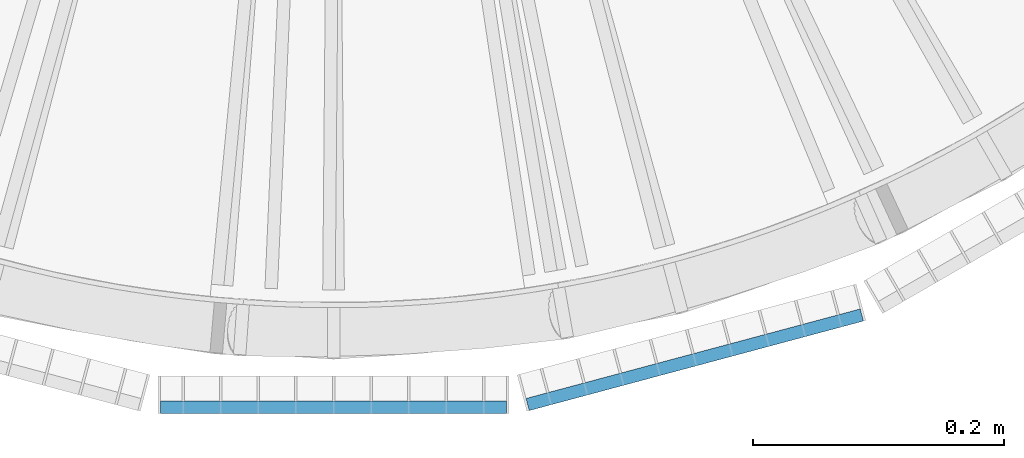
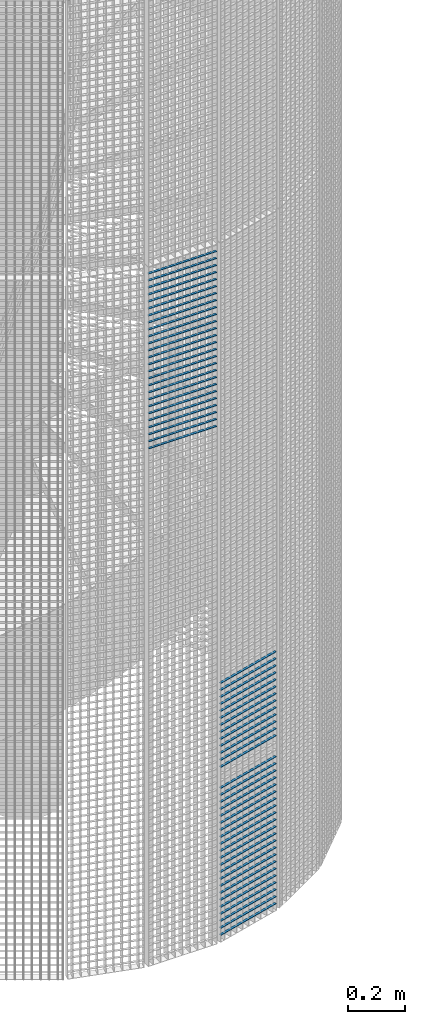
# One storey, part 169 of 1183: 61 beams, 2 elements without a shape of their own.
"""IFC2X3 building model written with IfcOpenShell, lengths in millimetres."""

from ifc_helpers import new_model, si_unit, frame, origin_with_axes, origin_2d_with_axis, place, context, subcontext, project, spatial, rectangle, extrude, material, type_object, element, aggregate, save


model = new_model("IFC2X3")

# Units and contexts
model_context = context("Model", 3, precision=1e-05, world=origin_with_axes())
body_context = subcontext(model_context, "Body", "Model", "MODEL_VIEW")
ifc_project = project(units=[si_unit("LENGTHUNIT", "METRE", prefix="MILLI"), si_unit("AREAUNIT", "SQUARE_METRE"), si_unit("VOLUMEUNIT", "CUBIC_METRE"), si_unit("MASSUNIT", "GRAM", prefix="KILO"), si_unit("TIMEUNIT", "SECOND"), si_unit("PLANEANGLEUNIT", "RADIAN"), si_unit("SOLIDANGLEUNIT", "STERADIAN"), si_unit("THERMODYNAMICTEMPERATUREUNIT", "DEGREE_CELSIUS"), si_unit("LUMINOUSINTENSITYUNIT", "LUMEN")], contexts=[model_context])

# Site, building, storey
site_placement = place(None, origin_with_axes())
site = spatial("IfcSite", under=ifc_project, at=site_placement, Name="Undefined", CompositionType="ELEMENT")
building_placement = place(site_placement, origin_with_axes())
building = spatial("IfcBuilding", under=site, at=building_placement, Name="Undefined", CompositionType="ELEMENT")
storey_placement = place(building_placement, origin_with_axes())
storey = spatial("IfcBuildingStorey", under=building, at=storey_placement, Name="Undefined", CompositionType="ELEMENT", Elevation=0.0)

# Assembly, beams
assembly_1_placement = place(storey_placement, origin_with_axes())
assembly_1 = element("IfcElementAssembly", 1, at=assembly_1_placement, inside=storey, Name="BORDURE", AssemblyPlace="NOTDEFINED", PredefinedType="NOTDEFINED")
ifc_material = material(Name="STEEL/S235JR")
beam_type = type_object("IfcBeamType", Name="PL2*10", PredefinedType="NOTDEFINED")
beam_1_placement = place(assembly_1_placement, frame((154.895926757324, -1111.25508286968, 749.999999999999), z_axis=(0.258819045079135, -0.965925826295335, 0.0), x_axis=(0.965925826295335, 0.258819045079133, 0.0)))
beam_1 = element("IfcBeam", 2, at=beam_1_placement, type_object=beam_type, material=ifc_material, Name="ENTRETOISE", context=body_context, shape_type="SweptSolid", body=[
    extrude(rectangle(XDim=2.0, YDim=10.0, at=origin_2d_with_axis()), frame((275.999999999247, 9.09494701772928e-13, 1.53210777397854e-14), z_axis=(-1.0, 0.0, 0.0), x_axis=(0.0, -1.0, 0.0)), (0.0, 0.0, 1.0), 276.0),
])
beam_2_placement = place(assembly_1_placement, frame((154.895926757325, -1111.25508286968, 659.999999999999), z_axis=(0.258819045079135, -0.965925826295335, 0.0), x_axis=(0.965925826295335, 0.258819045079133, 0.0)))
beam_2 = element("IfcBeam", 3, at=beam_2_placement, type_object=beam_type, material=ifc_material, Name="ENTRETOISE", context=body_context, shape_type="SweptSolid", body=[
    extrude(rectangle(XDim=2.0, YDim=10.0, at=origin_2d_with_axis()), frame((275.999999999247, 9.09494701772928e-13, 1.53210777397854e-14), z_axis=(-1.0, 0.0, 0.0), x_axis=(0.0, -1.0, 0.0)), (0.0, 0.0, 1.0), 276.0),
])
beam_3_placement = place(assembly_1_placement, frame((154.895926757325, -1111.25508286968, 629.999999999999), z_axis=(0.258819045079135, -0.965925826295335, 0.0), x_axis=(0.965925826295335, 0.258819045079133, 0.0)))
beam_3 = element("IfcBeam", 4, at=beam_3_placement, type_object=beam_type, material=ifc_material, Name="ENTRETOISE", context=body_context, shape_type="SweptSolid", body=[
    extrude(rectangle(XDim=2.0, YDim=10.0, at=origin_2d_with_axis()), frame((275.999999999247, 9.09494701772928e-13, 1.53210777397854e-14), z_axis=(-1.0, 0.0, 0.0), x_axis=(0.0, -1.0, 0.0)), (0.0, 0.0, 1.0), 276.0),
])
beam_4_placement = place(assembly_1_placement, frame((154.895926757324, -1111.25508286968, 779.999999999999), z_axis=(0.258819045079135, -0.965925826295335, 0.0), x_axis=(0.965925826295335, 0.258819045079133, 0.0)))
beam_4 = element("IfcBeam", 5, at=beam_4_placement, type_object=beam_type, material=ifc_material, Name="ENTRETOISE", context=body_context, shape_type="SweptSolid", body=[
    extrude(rectangle(XDim=2.0, YDim=10.0, at=origin_2d_with_axis()), frame((275.999999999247, 9.09494701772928e-13, 1.53210777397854e-14), z_axis=(-1.0, 0.0, 0.0), x_axis=(0.0, -1.0, 0.0)), (0.0, 0.0, 1.0), 276.0),
])
beam_5_placement = place(assembly_1_placement, frame((154.895926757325, -1111.25508286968, 599.999999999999), z_axis=(0.258819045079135, -0.965925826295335, 0.0), x_axis=(0.965925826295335, 0.258819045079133, 0.0)))
beam_5 = element("IfcBeam", 6, at=beam_5_placement, type_object=beam_type, material=ifc_material, Name="ENTRETOISE", context=body_context, shape_type="SweptSolid", body=[
    extrude(rectangle(XDim=2.0, YDim=10.0, at=origin_2d_with_axis()), frame((275.999999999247, 9.09494701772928e-13, 1.53210777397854e-14), z_axis=(-1.0, 0.0, 0.0), x_axis=(0.0, -1.0, 0.0)), (0.0, 0.0, 1.0), 276.0),
])
beam_6_placement = place(assembly_1_placement, frame((154.895926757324, -1111.25508286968, 809.999999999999), z_axis=(0.258819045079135, -0.965925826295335, 0.0), x_axis=(0.965925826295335, 0.258819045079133, 0.0)))
beam_6 = element("IfcBeam", 7, at=beam_6_placement, type_object=beam_type, material=ifc_material, Name="ENTRETOISE", context=body_context, shape_type="SweptSolid", body=[
    extrude(rectangle(XDim=2.0, YDim=10.0, at=origin_2d_with_axis()), frame((275.999999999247, 9.09494701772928e-13, 1.53210777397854e-14), z_axis=(-1.0, 0.0, 0.0), x_axis=(0.0, -1.0, 0.0)), (0.0, 0.0, 1.0), 276.0),
])
beam_7_placement = place(assembly_1_placement, frame((154.895926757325, -1111.25508286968, 569.999999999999), z_axis=(0.258819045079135, -0.965925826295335, 0.0), x_axis=(0.965925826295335, 0.258819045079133, 0.0)))
beam_7 = element("IfcBeam", 8, at=beam_7_placement, type_object=beam_type, material=ifc_material, Name="ENTRETOISE", context=body_context, shape_type="SweptSolid", body=[
    extrude(rectangle(XDim=2.0, YDim=10.0, at=origin_2d_with_axis()), frame((275.999999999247, 9.09494701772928e-13, 1.53210777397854e-14), z_axis=(-1.0, 0.0, 0.0), x_axis=(0.0, -1.0, 0.0)), (0.0, 0.0, 1.0), 276.0),
])
beam_8_placement = place(assembly_1_placement, frame((154.895926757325, -1111.25508286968, 539.999999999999), z_axis=(0.258819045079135, -0.965925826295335, 0.0), x_axis=(0.965925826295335, 0.258819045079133, 0.0)))
beam_8 = element("IfcBeam", 9, at=beam_8_placement, type_object=beam_type, material=ifc_material, Name="ENTRETOISE", context=body_context, shape_type="SweptSolid", body=[
    extrude(rectangle(XDim=2.0, YDim=10.0, at=origin_2d_with_axis()), frame((275.999999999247, 9.09494701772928e-13, 1.53210777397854e-14), z_axis=(-1.0, 0.0, 0.0), x_axis=(0.0, -1.0, 0.0)), (0.0, 0.0, 1.0), 276.0),
])
beam_9_placement = place(assembly_1_placement, frame((154.895926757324, -1111.25508286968, 839.999999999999), z_axis=(0.258819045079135, -0.965925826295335, 0.0), x_axis=(0.965925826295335, 0.258819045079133, 0.0)))
beam_9 = element("IfcBeam", 10, at=beam_9_placement, type_object=beam_type, material=ifc_material, Name="ENTRETOISE", context=body_context, shape_type="SweptSolid", body=[
    extrude(rectangle(XDim=2.0, YDim=10.0, at=origin_2d_with_axis()), frame((275.999999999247, 9.09494701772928e-13, 1.53210777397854e-14), z_axis=(-1.0, 0.0, 0.0), x_axis=(0.0, -1.0, 0.0)), (0.0, 0.0, 1.0), 276.0),
])
beam_10_placement = place(assembly_1_placement, frame((154.895926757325, -1111.25508286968, 509.999999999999), z_axis=(0.258819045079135, -0.965925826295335, 0.0), x_axis=(0.965925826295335, 0.258819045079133, 0.0)))
beam_10 = element("IfcBeam", 11, at=beam_10_placement, type_object=beam_type, material=ifc_material, Name="ENTRETOISE", context=body_context, shape_type="SweptSolid", body=[
    extrude(rectangle(XDim=2.0, YDim=10.0, at=origin_2d_with_axis()), frame((275.999999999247, 9.09494701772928e-13, 1.53210777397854e-14), z_axis=(-1.0, 0.0, 0.0), x_axis=(0.0, -1.0, 0.0)), (0.0, 0.0, 1.0), 276.0),
])
beam_11_placement = place(assembly_1_placement, frame((154.895926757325, -1111.25508286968, 479.999999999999), z_axis=(0.258819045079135, -0.965925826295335, 0.0), x_axis=(0.965925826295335, 0.258819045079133, 0.0)))
beam_11 = element("IfcBeam", 12, at=beam_11_placement, type_object=beam_type, material=ifc_material, Name="ENTRETOISE", context=body_context, shape_type="SweptSolid", body=[
    extrude(rectangle(XDim=2.0, YDim=10.0, at=origin_2d_with_axis()), frame((275.999999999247, 9.09494701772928e-13, 1.53210777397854e-14), z_axis=(-1.0, 0.0, 0.0), x_axis=(0.0, -1.0, 0.0)), (0.0, 0.0, 1.0), 276.0),
])
beam_12_placement = place(assembly_1_placement, frame((154.895926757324, -1111.25508286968, 869.999999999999), z_axis=(0.258819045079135, -0.965925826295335, 0.0), x_axis=(0.965925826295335, 0.258819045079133, 0.0)))
beam_12 = element("IfcBeam", 13, at=beam_12_placement, type_object=beam_type, material=ifc_material, Name="ENTRETOISE", context=body_context, shape_type="SweptSolid", body=[
    extrude(rectangle(XDim=2.0, YDim=10.0, at=origin_2d_with_axis()), frame((275.999999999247, 9.09494701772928e-13, 1.53210777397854e-14), z_axis=(-1.0, 0.0, 0.0), x_axis=(0.0, -1.0, 0.0)), (0.0, 0.0, 1.0), 276.0),
])
beam_13_placement = place(assembly_1_placement, frame((154.895926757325, -1111.25508286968, 449.999999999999), z_axis=(0.258819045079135, -0.965925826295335, 0.0), x_axis=(0.965925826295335, 0.258819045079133, 0.0)))
beam_13 = element("IfcBeam", 14, at=beam_13_placement, type_object=beam_type, material=ifc_material, Name="ENTRETOISE", context=body_context, shape_type="SweptSolid", body=[
    extrude(rectangle(XDim=2.0, YDim=10.0, at=origin_2d_with_axis()), frame((275.999999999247, 9.09494701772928e-13, 1.53210777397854e-14), z_axis=(-1.0, 0.0, 0.0), x_axis=(0.0, -1.0, 0.0)), (0.0, 0.0, 1.0), 276.0),
])
beam_14_placement = place(assembly_1_placement, frame((154.895926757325, -1111.25508286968, 419.999999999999), z_axis=(0.258819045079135, -0.965925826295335, 0.0), x_axis=(0.965925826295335, 0.258819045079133, 0.0)))
beam_14 = element("IfcBeam", 15, at=beam_14_placement, type_object=beam_type, material=ifc_material, Name="ENTRETOISE", context=body_context, shape_type="SweptSolid", body=[
    extrude(rectangle(XDim=2.0, YDim=10.0, at=origin_2d_with_axis()), frame((275.999999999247, 9.09494701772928e-13, 1.53210777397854e-14), z_axis=(-1.0, 0.0, 0.0), x_axis=(0.0, -1.0, 0.0)), (0.0, 0.0, 1.0), 276.0),
])
beam_15_placement = place(assembly_1_placement, frame((154.895926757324, -1111.25508286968, 899.999999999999), z_axis=(0.258819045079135, -0.965925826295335, 0.0), x_axis=(0.965925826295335, 0.258819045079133, 0.0)))
beam_15 = element("IfcBeam", 16, at=beam_15_placement, type_object=beam_type, material=ifc_material, Name="ENTRETOISE", context=body_context, shape_type="SweptSolid", body=[
    extrude(rectangle(XDim=2.0, YDim=10.0, at=origin_2d_with_axis()), frame((275.999999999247, 9.09494701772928e-13, 1.53210777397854e-14), z_axis=(-1.0, 0.0, 0.0), x_axis=(0.0, -1.0, 0.0)), (0.0, 0.0, 1.0), 276.0),
])
beam_16_placement = place(assembly_1_placement, frame((154.895926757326, -1111.25508286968, 389.999999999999), z_axis=(0.258819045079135, -0.965925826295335, 0.0), x_axis=(0.965925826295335, 0.258819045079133, 0.0)))
beam_16 = element("IfcBeam", 17, at=beam_16_placement, type_object=beam_type, material=ifc_material, Name="ENTRETOISE", context=body_context, shape_type="SweptSolid", body=[
    extrude(rectangle(XDim=2.0, YDim=10.0, at=origin_2d_with_axis()), frame((275.999999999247, 9.09494701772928e-13, 1.53210777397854e-14), z_axis=(-1.0, 0.0, 0.0), x_axis=(0.0, -1.0, 0.0)), (0.0, 0.0, 1.0), 276.0),
])
beam_17_placement = place(assembly_1_placement, frame((154.895926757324, -1111.25508286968, 929.999999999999), z_axis=(0.258819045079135, -0.965925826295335, 0.0), x_axis=(0.965925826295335, 0.258819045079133, 0.0)))
beam_17 = element("IfcBeam", 18, at=beam_17_placement, type_object=beam_type, material=ifc_material, Name="ENTRETOISE", context=body_context, shape_type="SweptSolid", body=[
    extrude(rectangle(XDim=2.0, YDim=10.0, at=origin_2d_with_axis()), frame((275.999999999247, 9.09494701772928e-13, 1.53210777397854e-14), z_axis=(-1.0, 0.0, 0.0), x_axis=(0.0, -1.0, 0.0)), (0.0, 0.0, 1.0), 276.0),
])
beam_18_placement = place(assembly_1_placement, frame((154.895926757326, -1111.25508286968, 359.999999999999), z_axis=(0.258819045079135, -0.965925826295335, 0.0), x_axis=(0.965925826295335, 0.258819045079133, 0.0)))
beam_18 = element("IfcBeam", 19, at=beam_18_placement, type_object=beam_type, material=ifc_material, Name="ENTRETOISE", context=body_context, shape_type="SweptSolid", body=[
    extrude(rectangle(XDim=2.0, YDim=10.0, at=origin_2d_with_axis()), frame((275.999999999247, 9.09494701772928e-13, 1.53210777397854e-14), z_axis=(-1.0, 0.0, 0.0), x_axis=(0.0, -1.0, 0.0)), (0.0, 0.0, 1.0), 276.0),
])
beam_19_placement = place(assembly_1_placement, frame((154.895926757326, -1111.25508286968, 329.999999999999), z_axis=(0.258819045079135, -0.965925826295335, 0.0), x_axis=(0.965925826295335, 0.258819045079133, 0.0)))
beam_19 = element("IfcBeam", 20, at=beam_19_placement, type_object=beam_type, material=ifc_material, Name="ENTRETOISE", context=body_context, shape_type="SweptSolid", body=[
    extrude(rectangle(XDim=2.0, YDim=10.0, at=origin_2d_with_axis()), frame((275.999999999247, 9.09494701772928e-13, 1.53210777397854e-14), z_axis=(-1.0, 0.0, 0.0), x_axis=(0.0, -1.0, 0.0)), (0.0, 0.0, 1.0), 276.0),
])
beam_20_placement = place(assembly_1_placement, frame((154.895926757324, -1111.25508286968, 959.999999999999), z_axis=(0.258819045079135, -0.965925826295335, 0.0), x_axis=(0.965925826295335, 0.258819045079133, 0.0)))
beam_20 = element("IfcBeam", 21, at=beam_20_placement, type_object=beam_type, material=ifc_material, Name="ENTRETOISE", context=body_context, shape_type="SweptSolid", body=[
    extrude(rectangle(XDim=2.0, YDim=10.0, at=origin_2d_with_axis()), frame((275.999999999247, 9.09494701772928e-13, 1.53210777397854e-14), z_axis=(-1.0, 0.0, 0.0), x_axis=(0.0, -1.0, 0.0)), (0.0, 0.0, 1.0), 276.0),
])
beam_21_placement = place(assembly_1_placement, frame((154.895926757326, -1111.25508286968, 299.999999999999), z_axis=(0.258819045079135, -0.965925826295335, 0.0), x_axis=(0.965925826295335, 0.258819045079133, 0.0)))
beam_21 = element("IfcBeam", 22, at=beam_21_placement, type_object=beam_type, material=ifc_material, Name="ENTRETOISE", context=body_context, shape_type="SweptSolid", body=[
    extrude(rectangle(XDim=2.0, YDim=10.0, at=origin_2d_with_axis()), frame((275.999999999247, 9.09494701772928e-13, 1.53210777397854e-14), z_axis=(-1.0, 0.0, 0.0), x_axis=(0.0, -1.0, 0.0)), (0.0, 0.0, 1.0), 276.0),
])
beam_22_placement = place(assembly_1_placement, frame((154.895926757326, -1111.25508286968, 269.999999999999), z_axis=(0.258819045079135, -0.965925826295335, 0.0), x_axis=(0.965925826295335, 0.258819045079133, 0.0)))
beam_22 = element("IfcBeam", 23, at=beam_22_placement, type_object=beam_type, material=ifc_material, Name="ENTRETOISE", context=body_context, shape_type="SweptSolid", body=[
    extrude(rectangle(XDim=2.0, YDim=10.0, at=origin_2d_with_axis()), frame((275.999999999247, 9.09494701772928e-13, 1.53210777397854e-14), z_axis=(-1.0, 0.0, 0.0), x_axis=(0.0, -1.0, 0.0)), (0.0, 0.0, 1.0), 276.0),
])
beam_23_placement = place(assembly_1_placement, frame((154.895926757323, -1111.25508286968, 989.999999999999), z_axis=(0.258819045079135, -0.965925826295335, 0.0), x_axis=(0.965925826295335, 0.258819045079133, 0.0)))
beam_23 = element("IfcBeam", 24, at=beam_23_placement, type_object=beam_type, material=ifc_material, Name="ENTRETOISE", context=body_context, shape_type="SweptSolid", body=[
    extrude(rectangle(XDim=2.0, YDim=10.0, at=origin_2d_with_axis()), frame((275.999999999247, 9.09494701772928e-13, 1.53210777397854e-14), z_axis=(-1.0, 0.0, 0.0), x_axis=(0.0, -1.0, 0.0)), (0.0, 0.0, 1.0), 276.0),
])
beam_24_placement = place(assembly_1_placement, frame((154.895926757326, -1111.25508286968, 239.999999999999), z_axis=(0.258819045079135, -0.965925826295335, 0.0), x_axis=(0.965925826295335, 0.258819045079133, 0.0)))
beam_24 = element("IfcBeam", 25, at=beam_24_placement, type_object=beam_type, material=ifc_material, Name="ENTRETOISE", context=body_context, shape_type="SweptSolid", body=[
    extrude(rectangle(XDim=2.0, YDim=10.0, at=origin_2d_with_axis()), frame((275.999999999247, 9.09494701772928e-13, 1.53210777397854e-14), z_axis=(-1.0, 0.0, 0.0), x_axis=(0.0, -1.0, 0.0)), (0.0, 0.0, 1.0), 276.0),
])
beam_25_placement = place(assembly_1_placement, frame((154.895926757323, -1111.25508286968, 1020.0), z_axis=(0.258819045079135, -0.965925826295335, 0.0), x_axis=(0.965925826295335, 0.258819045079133, 0.0)))
beam_25 = element("IfcBeam", 26, at=beam_25_placement, type_object=beam_type, material=ifc_material, Name="ENTRETOISE", context=body_context, shape_type="SweptSolid", body=[
    extrude(rectangle(XDim=2.0, YDim=10.0, at=origin_2d_with_axis()), frame((275.999999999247, 9.09494701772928e-13, 1.53210777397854e-14), z_axis=(-1.0, 0.0, 0.0), x_axis=(0.0, -1.0, 0.0)), (0.0, 0.0, 1.0), 276.0),
])
beam_26_placement = place(assembly_1_placement, frame((154.895926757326, -1111.25508286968, 209.999999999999), z_axis=(0.258819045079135, -0.965925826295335, 0.0), x_axis=(0.965925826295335, 0.258819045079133, 0.0)))
beam_26 = element("IfcBeam", 27, at=beam_26_placement, type_object=beam_type, material=ifc_material, Name="ENTRETOISE", context=body_context, shape_type="SweptSolid", body=[
    extrude(rectangle(XDim=2.0, YDim=10.0, at=origin_2d_with_axis()), frame((275.999999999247, 9.09494701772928e-13, 1.53210777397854e-14), z_axis=(-1.0, 0.0, 0.0), x_axis=(0.0, -1.0, 0.0)), (0.0, 0.0, 1.0), 276.0),
])
beam_27_placement = place(assembly_1_placement, frame((154.895926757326, -1111.25508286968, 179.999999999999), z_axis=(0.258819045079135, -0.965925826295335, 0.0), x_axis=(0.965925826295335, 0.258819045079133, 0.0)))
beam_27 = element("IfcBeam", 28, at=beam_27_placement, type_object=beam_type, material=ifc_material, Name="ENTRETOISE", context=body_context, shape_type="SweptSolid", body=[
    extrude(rectangle(XDim=2.0, YDim=10.0, at=origin_2d_with_axis()), frame((275.999999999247, 9.09494701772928e-13, 1.53210777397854e-14), z_axis=(-1.0, 0.0, 0.0), x_axis=(0.0, -1.0, 0.0)), (0.0, 0.0, 1.0), 276.0),
])
beam_28_placement = place(assembly_1_placement, frame((154.895926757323, -1111.25508286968, 1050.0), z_axis=(0.258819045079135, -0.965925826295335, 0.0), x_axis=(0.965925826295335, 0.258819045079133, 0.0)))
beam_28 = element("IfcBeam", 29, at=beam_28_placement, type_object=beam_type, material=ifc_material, Name="ENTRETOISE", context=body_context, shape_type="SweptSolid", body=[
    extrude(rectangle(XDim=2.0, YDim=10.0, at=origin_2d_with_axis()), frame((275.999999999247, 9.09494701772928e-13, 1.53210777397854e-14), z_axis=(-1.0, 0.0, 0.0), x_axis=(0.0, -1.0, 0.0)), (0.0, 0.0, 1.0), 276.0),
])
beam_29_placement = place(assembly_1_placement, frame((154.895926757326, -1111.25508286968, 149.999999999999), z_axis=(0.258819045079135, -0.965925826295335, 0.0), x_axis=(0.965925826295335, 0.258819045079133, 0.0)))
beam_29 = element("IfcBeam", 30, at=beam_29_placement, type_object=beam_type, material=ifc_material, Name="ENTRETOISE", context=body_context, shape_type="SweptSolid", body=[
    extrude(rectangle(XDim=2.0, YDim=10.0, at=origin_2d_with_axis()), frame((275.999999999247, 9.09494701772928e-13, 1.53210777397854e-14), z_axis=(-1.0, 0.0, 0.0), x_axis=(0.0, -1.0, 0.0)), (0.0, 0.0, 1.0), 276.0),
])
beam_30_placement = place(assembly_1_placement, frame((154.895926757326, -1111.25508286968, 119.999999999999), z_axis=(0.258819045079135, -0.965925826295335, 0.0), x_axis=(0.965925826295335, 0.258819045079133, 0.0)))
beam_30 = element("IfcBeam", 31, at=beam_30_placement, type_object=beam_type, material=ifc_material, Name="ENTRETOISE", context=body_context, shape_type="SweptSolid", body=[
    extrude(rectangle(XDim=2.0, YDim=10.0, at=origin_2d_with_axis()), frame((275.999999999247, 9.09494701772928e-13, 1.53210777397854e-14), z_axis=(-1.0, 0.0, 0.0), x_axis=(0.0, -1.0, 0.0)), (0.0, 0.0, 1.0), 276.0),
])
beam_31_placement = place(assembly_1_placement, frame((154.895926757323, -1111.25508286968, 1080.0), z_axis=(0.258819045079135, -0.965925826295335, 0.0), x_axis=(0.965925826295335, 0.258819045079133, 0.0)))
beam_31 = element("IfcBeam", 32, at=beam_31_placement, type_object=beam_type, material=ifc_material, Name="ENTRETOISE", context=body_context, shape_type="SweptSolid", body=[
    extrude(rectangle(XDim=2.0, YDim=10.0, at=origin_2d_with_axis()), frame((275.999999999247, 9.09494701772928e-13, 1.53210777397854e-14), z_axis=(-1.0, 0.0, 0.0), x_axis=(0.0, -1.0, 0.0)), (0.0, 0.0, 1.0), 276.0),
])
beam_32_placement = place(assembly_1_placement, frame((154.895926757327, -1111.25508286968, 89.9999999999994), z_axis=(0.258819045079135, -0.965925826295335, 0.0), x_axis=(0.965925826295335, 0.258819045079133, 0.0)))
beam_32 = element("IfcBeam", 33, at=beam_32_placement, type_object=beam_type, material=ifc_material, Name="ENTRETOISE", context=body_context, shape_type="SweptSolid", body=[
    extrude(rectangle(XDim=2.0, YDim=10.0, at=origin_2d_with_axis()), frame((275.999999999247, 9.09494701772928e-13, 1.53210777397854e-14), z_axis=(-1.0, 0.0, 0.0), x_axis=(0.0, -1.0, 0.0)), (0.0, 0.0, 1.0), 276.0),
])
beam_33_placement = place(assembly_1_placement, frame((154.895926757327, -1111.25508286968, 59.9999999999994), z_axis=(0.258819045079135, -0.965925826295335, 0.0), x_axis=(0.965925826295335, 0.258819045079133, 0.0)))
beam_33 = element("IfcBeam", 34, at=beam_33_placement, type_object=beam_type, material=ifc_material, Name="ENTRETOISE", context=body_context, shape_type="SweptSolid", body=[
    extrude(rectangle(XDim=2.0, YDim=10.0, at=origin_2d_with_axis()), frame((275.999999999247, 9.09494701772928e-13, 1.53210777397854e-14), z_axis=(-1.0, 0.0, 0.0), x_axis=(0.0, -1.0, 0.0)), (0.0, 0.0, 1.0), 276.0),
])
beam_34_placement = place(assembly_1_placement, frame((154.895926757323, -1111.25508286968, 1110.0), z_axis=(0.258819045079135, -0.965925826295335, 0.0), x_axis=(0.965925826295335, 0.258819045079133, 0.0)))
beam_34 = element("IfcBeam", 35, at=beam_34_placement, type_object=beam_type, material=ifc_material, Name="ENTRETOISE", context=body_context, shape_type="SweptSolid", body=[
    extrude(rectangle(XDim=2.0, YDim=10.0, at=origin_2d_with_axis()), frame((275.999999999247, 9.09494701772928e-13, 1.53210777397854e-14), z_axis=(-1.0, 0.0, 0.0), x_axis=(0.0, -1.0, 0.0)), (0.0, 0.0, 1.0), 276.0),
])
beam_35_placement = place(assembly_1_placement, frame((154.895926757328, -1111.25508286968, 29.9999999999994), z_axis=(0.258819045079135, -0.965925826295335, 0.0), x_axis=(0.965925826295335, 0.258819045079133, 0.0)))
beam_35 = element("IfcBeam", 36, at=beam_35_placement, type_object=beam_type, material=ifc_material, Name="ENTRETOISE", context=body_context, shape_type="SweptSolid", body=[
    extrude(rectangle(XDim=2.0, YDim=10.0, at=origin_2d_with_axis()), frame((275.999999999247, 9.09494701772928e-13, 1.53210777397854e-14), z_axis=(-1.0, 0.0, 0.0), x_axis=(0.0, -1.0, 0.0)), (0.0, 0.0, 1.0), 276.0),
])
aggregate(assembly_1, [beam_1, beam_2, beam_3, beam_4, beam_5, beam_6, beam_7, beam_8, beam_9, beam_10, beam_11, beam_12, beam_13, beam_14, beam_15, beam_16, beam_17, beam_18, beam_19, beam_20, beam_21, beam_22, beam_23, beam_24, beam_25, beam_26, beam_27, beam_28, beam_29, beam_30, beam_31, beam_32, beam_33, beam_34, beam_35])

assembly_2_placement = place(storey_placement, origin_with_axes())
assembly_2 = element("IfcElementAssembly", 37, at=assembly_2_placement, inside=storey, Name="BORDURE", AssemblyPlace="NOTDEFINED", PredefinedType="NOTDEFINED")
beam_36_placement = place(assembly_2_placement, frame((-137.996003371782, -1113.47999999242, 2970.0), z_axis=(0.0, -1.0, 0.0), x_axis=(1.0, 0.0, 0.0)))
beam_36 = element("IfcBeam", 38, at=beam_36_placement, type_object=beam_type, material=ifc_material, Name="ENTRETOISE", context=body_context, shape_type="SweptSolid", body=[
    extrude(rectangle(XDim=2.0, YDim=10.0, at=origin_2d_with_axis()), frame((275.999999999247, 9.09494701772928e-13, 1.53210777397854e-14), z_axis=(-1.0, 0.0, 0.0), x_axis=(0.0, -1.0, 0.0)), (0.0, 0.0, 1.0), 276.0),
])
beam_37_placement = place(assembly_2_placement, frame((-137.996003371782, -1113.47999999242, 2940.0), z_axis=(0.0, -1.0, 0.0), x_axis=(1.0, 0.0, 0.0)))
beam_37 = element("IfcBeam", 39, at=beam_37_placement, type_object=beam_type, material=ifc_material, Name="ENTRETOISE", context=body_context, shape_type="SweptSolid", body=[
    extrude(rectangle(XDim=2.0, YDim=10.0, at=origin_2d_with_axis()), frame((275.999999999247, 9.09494701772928e-13, 1.53210777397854e-14), z_axis=(-1.0, 0.0, 0.0), x_axis=(0.0, -1.0, 0.0)), (0.0, 0.0, 1.0), 276.0),
])
beam_38_placement = place(assembly_2_placement, frame((-137.996003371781, -1113.47999999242, 2910.0), z_axis=(0.0, -1.0, 0.0), x_axis=(1.0, 0.0, 0.0)))
beam_38 = element("IfcBeam", 40, at=beam_38_placement, type_object=beam_type, material=ifc_material, Name="ENTRETOISE", context=body_context, shape_type="SweptSolid", body=[
    extrude(rectangle(XDim=2.0, YDim=10.0, at=origin_2d_with_axis()), frame((275.999999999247, 9.09494701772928e-13, 1.53210777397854e-14), z_axis=(-1.0, 0.0, 0.0), x_axis=(0.0, -1.0, 0.0)), (0.0, 0.0, 1.0), 276.0),
])
beam_39_placement = place(assembly_2_placement, frame((-137.996003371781, -1113.47999999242, 2880.0), z_axis=(0.0, -1.0, 0.0), x_axis=(1.0, 0.0, 0.0)))
beam_39 = element("IfcBeam", 41, at=beam_39_placement, type_object=beam_type, material=ifc_material, Name="ENTRETOISE", context=body_context, shape_type="SweptSolid", body=[
    extrude(rectangle(XDim=2.0, YDim=10.0, at=origin_2d_with_axis()), frame((275.999999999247, 9.09494701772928e-13, 1.53210777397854e-14), z_axis=(-1.0, 0.0, 0.0), x_axis=(0.0, -1.0, 0.0)), (0.0, 0.0, 1.0), 276.0),
])
beam_40_placement = place(assembly_2_placement, frame((-137.996003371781, -1113.47999999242, 2850.0), z_axis=(0.0, -1.0, 0.0), x_axis=(1.0, 0.0, 0.0)))
beam_40 = element("IfcBeam", 42, at=beam_40_placement, type_object=beam_type, material=ifc_material, Name="ENTRETOISE", context=body_context, shape_type="SweptSolid", body=[
    extrude(rectangle(XDim=2.0, YDim=10.0, at=origin_2d_with_axis()), frame((275.999999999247, 9.09494701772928e-13, 1.53210777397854e-14), z_axis=(-1.0, 0.0, 0.0), x_axis=(0.0, -1.0, 0.0)), (0.0, 0.0, 1.0), 276.0),
])
beam_41_placement = place(assembly_2_placement, frame((-137.996003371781, -1113.47999999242, 2820.0), z_axis=(0.0, -1.0, 0.0), x_axis=(1.0, 0.0, 0.0)))
beam_41 = element("IfcBeam", 43, at=beam_41_placement, type_object=beam_type, material=ifc_material, Name="ENTRETOISE", context=body_context, shape_type="SweptSolid", body=[
    extrude(rectangle(XDim=2.0, YDim=10.0, at=origin_2d_with_axis()), frame((275.999999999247, 9.09494701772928e-13, 1.53210777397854e-14), z_axis=(-1.0, 0.0, 0.0), x_axis=(0.0, -1.0, 0.0)), (0.0, 0.0, 1.0), 276.0),
])
beam_42_placement = place(assembly_2_placement, frame((-137.996003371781, -1113.47999999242, 2790.0), z_axis=(0.0, -1.0, 0.0), x_axis=(1.0, 0.0, 0.0)))
beam_42 = element("IfcBeam", 44, at=beam_42_placement, type_object=beam_type, material=ifc_material, Name="ENTRETOISE", context=body_context, shape_type="SweptSolid", body=[
    extrude(rectangle(XDim=2.0, YDim=10.0, at=origin_2d_with_axis()), frame((275.999999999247, 9.09494701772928e-13, 1.53210777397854e-14), z_axis=(-1.0, 0.0, 0.0), x_axis=(0.0, -1.0, 0.0)), (0.0, 0.0, 1.0), 276.0),
])
beam_43_placement = place(assembly_2_placement, frame((-137.996003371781, -1113.47999999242, 2760.0), z_axis=(0.0, -1.0, 0.0), x_axis=(1.0, 0.0, 0.0)))
beam_43 = element("IfcBeam", 45, at=beam_43_placement, type_object=beam_type, material=ifc_material, Name="ENTRETOISE", context=body_context, shape_type="SweptSolid", body=[
    extrude(rectangle(XDim=2.0, YDim=10.0, at=origin_2d_with_axis()), frame((275.999999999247, 9.09494701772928e-13, 1.53210777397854e-14), z_axis=(-1.0, 0.0, 0.0), x_axis=(0.0, -1.0, 0.0)), (0.0, 0.0, 1.0), 276.0),
])
beam_44_placement = place(assembly_2_placement, frame((-137.996003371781, -1113.47999999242, 2730.0), z_axis=(0.0, -1.0, 0.0), x_axis=(1.0, 0.0, 0.0)))
beam_44 = element("IfcBeam", 46, at=beam_44_placement, type_object=beam_type, material=ifc_material, Name="ENTRETOISE", context=body_context, shape_type="SweptSolid", body=[
    extrude(rectangle(XDim=2.0, YDim=10.0, at=origin_2d_with_axis()), frame((275.999999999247, 9.09494701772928e-13, 1.53210777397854e-14), z_axis=(-1.0, 0.0, 0.0), x_axis=(0.0, -1.0, 0.0)), (0.0, 0.0, 1.0), 276.0),
])
beam_45_placement = place(assembly_2_placement, frame((-137.996003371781, -1113.47999999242, 2700.0), z_axis=(0.0, -1.0, 0.0), x_axis=(1.0, 0.0, 0.0)))
beam_45 = element("IfcBeam", 47, at=beam_45_placement, type_object=beam_type, material=ifc_material, Name="ENTRETOISE", context=body_context, shape_type="SweptSolid", body=[
    extrude(rectangle(XDim=2.0, YDim=10.0, at=origin_2d_with_axis()), frame((275.999999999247, 9.09494701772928e-13, 1.53210777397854e-14), z_axis=(-1.0, 0.0, 0.0), x_axis=(0.0, -1.0, 0.0)), (0.0, 0.0, 1.0), 276.0),
])
beam_46_placement = place(assembly_2_placement, frame((-137.996003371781, -1113.47999999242, 2670.0), z_axis=(0.0, -1.0, 0.0), x_axis=(1.0, 0.0, 0.0)))
beam_46 = element("IfcBeam", 48, at=beam_46_placement, type_object=beam_type, material=ifc_material, Name="ENTRETOISE", context=body_context, shape_type="SweptSolid", body=[
    extrude(rectangle(XDim=2.0, YDim=10.0, at=origin_2d_with_axis()), frame((275.999999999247, 9.09494701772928e-13, 1.53210777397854e-14), z_axis=(-1.0, 0.0, 0.0), x_axis=(0.0, -1.0, 0.0)), (0.0, 0.0, 1.0), 276.0),
])
beam_47_placement = place(assembly_2_placement, frame((-137.996003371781, -1113.47999999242, 2640.0), z_axis=(0.0, -1.0, 0.0), x_axis=(1.0, 0.0, 0.0)))
beam_47 = element("IfcBeam", 49, at=beam_47_placement, type_object=beam_type, material=ifc_material, Name="ENTRETOISE", context=body_context, shape_type="SweptSolid", body=[
    extrude(rectangle(XDim=2.0, YDim=10.0, at=origin_2d_with_axis()), frame((275.999999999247, 9.09494701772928e-13, 1.53210777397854e-14), z_axis=(-1.0, 0.0, 0.0), x_axis=(0.0, -1.0, 0.0)), (0.0, 0.0, 1.0), 276.0),
])
beam_48_placement = place(assembly_2_placement, frame((-137.99600337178, -1113.47999999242, 2610.0), z_axis=(0.0, -1.0, 0.0), x_axis=(1.0, 0.0, 0.0)))
beam_48 = element("IfcBeam", 50, at=beam_48_placement, type_object=beam_type, material=ifc_material, Name="ENTRETOISE", context=body_context, shape_type="SweptSolid", body=[
    extrude(rectangle(XDim=2.0, YDim=10.0, at=origin_2d_with_axis()), frame((275.999999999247, 9.09494701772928e-13, 1.53210777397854e-14), z_axis=(-1.0, 0.0, 0.0), x_axis=(0.0, -1.0, 0.0)), (0.0, 0.0, 1.0), 276.0),
])
beam_49_placement = place(assembly_2_placement, frame((-137.99600337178, -1113.47999999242, 2580.0), z_axis=(0.0, -1.0, 0.0), x_axis=(1.0, 0.0, 0.0)))
beam_49 = element("IfcBeam", 51, at=beam_49_placement, type_object=beam_type, material=ifc_material, Name="ENTRETOISE", context=body_context, shape_type="SweptSolid", body=[
    extrude(rectangle(XDim=2.0, YDim=10.0, at=origin_2d_with_axis()), frame((275.999999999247, 9.09494701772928e-13, 1.53210777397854e-14), z_axis=(-1.0, 0.0, 0.0), x_axis=(0.0, -1.0, 0.0)), (0.0, 0.0, 1.0), 276.0),
])
beam_50_placement = place(assembly_2_placement, frame((-137.99600337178, -1113.47999999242, 2550.0), z_axis=(0.0, -1.0, 0.0), x_axis=(1.0, 0.0, 0.0)))
beam_50 = element("IfcBeam", 52, at=beam_50_placement, type_object=beam_type, material=ifc_material, Name="ENTRETOISE", context=body_context, shape_type="SweptSolid", body=[
    extrude(rectangle(XDim=2.0, YDim=10.0, at=origin_2d_with_axis()), frame((275.999999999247, 9.09494701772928e-13, 1.53210777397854e-14), z_axis=(-1.0, 0.0, 0.0), x_axis=(0.0, -1.0, 0.0)), (0.0, 0.0, 1.0), 276.0),
])
beam_51_placement = place(assembly_2_placement, frame((-137.99600337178, -1113.47999999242, 2520.0), z_axis=(0.0, -1.0, 0.0), x_axis=(1.0, 0.0, 0.0)))
beam_51 = element("IfcBeam", 53, at=beam_51_placement, type_object=beam_type, material=ifc_material, Name="ENTRETOISE", context=body_context, shape_type="SweptSolid", body=[
    extrude(rectangle(XDim=2.0, YDim=10.0, at=origin_2d_with_axis()), frame((275.999999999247, 9.09494701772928e-13, 1.53210777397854e-14), z_axis=(-1.0, 0.0, 0.0), x_axis=(0.0, -1.0, 0.0)), (0.0, 0.0, 1.0), 276.0),
])
beam_52_placement = place(assembly_2_placement, frame((-137.99600337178, -1113.47999999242, 2490.0), z_axis=(0.0, -1.0, 0.0), x_axis=(1.0, 0.0, 0.0)))
beam_52 = element("IfcBeam", 54, at=beam_52_placement, type_object=beam_type, material=ifc_material, Name="ENTRETOISE", context=body_context, shape_type="SweptSolid", body=[
    extrude(rectangle(XDim=2.0, YDim=10.0, at=origin_2d_with_axis()), frame((275.999999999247, 9.09494701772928e-13, 1.53210777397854e-14), z_axis=(-1.0, 0.0, 0.0), x_axis=(0.0, -1.0, 0.0)), (0.0, 0.0, 1.0), 276.0),
])
beam_53_placement = place(assembly_2_placement, frame((-137.99600337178, -1113.47999999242, 2460.0), z_axis=(0.0, -1.0, 0.0), x_axis=(1.0, 0.0, 0.0)))
beam_53 = element("IfcBeam", 55, at=beam_53_placement, type_object=beam_type, material=ifc_material, Name="ENTRETOISE", context=body_context, shape_type="SweptSolid", body=[
    extrude(rectangle(XDim=2.0, YDim=10.0, at=origin_2d_with_axis()), frame((275.999999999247, 9.09494701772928e-13, 1.53210777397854e-14), z_axis=(-1.0, 0.0, 0.0), x_axis=(0.0, -1.0, 0.0)), (0.0, 0.0, 1.0), 276.0),
])
beam_54_placement = place(assembly_2_placement, frame((-137.99600337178, -1113.47999999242, 2430.0), z_axis=(0.0, -1.0, 0.0), x_axis=(1.0, 0.0, 0.0)))
beam_54 = element("IfcBeam", 56, at=beam_54_placement, type_object=beam_type, material=ifc_material, Name="ENTRETOISE", context=body_context, shape_type="SweptSolid", body=[
    extrude(rectangle(XDim=2.0, YDim=10.0, at=origin_2d_with_axis()), frame((275.999999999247, 9.09494701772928e-13, 1.53210777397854e-14), z_axis=(-1.0, 0.0, 0.0), x_axis=(0.0, -1.0, 0.0)), (0.0, 0.0, 1.0), 276.0),
])
beam_55_placement = place(assembly_2_placement, frame((-137.99600337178, -1113.47999999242, 2400.0), z_axis=(0.0, -1.0, 0.0), x_axis=(1.0, 0.0, 0.0)))
beam_55 = element("IfcBeam", 57, at=beam_55_placement, type_object=beam_type, material=ifc_material, Name="ENTRETOISE", context=body_context, shape_type="SweptSolid", body=[
    extrude(rectangle(XDim=2.0, YDim=10.0, at=origin_2d_with_axis()), frame((275.999999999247, 9.09494701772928e-13, 1.53210777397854e-14), z_axis=(-1.0, 0.0, 0.0), x_axis=(0.0, -1.0, 0.0)), (0.0, 0.0, 1.0), 276.0),
])
beam_56_placement = place(assembly_2_placement, frame((-137.99600337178, -1113.47999999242, 2370.0), z_axis=(0.0, -1.0, 0.0), x_axis=(1.0, 0.0, 0.0)))
beam_56 = element("IfcBeam", 58, at=beam_56_placement, type_object=beam_type, material=ifc_material, Name="ENTRETOISE", context=body_context, shape_type="SweptSolid", body=[
    extrude(rectangle(XDim=2.0, YDim=10.0, at=origin_2d_with_axis()), frame((275.999999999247, 9.09494701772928e-13, 1.53210777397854e-14), z_axis=(-1.0, 0.0, 0.0), x_axis=(0.0, -1.0, 0.0)), (0.0, 0.0, 1.0), 276.0),
])
beam_57_placement = place(assembly_2_placement, frame((-137.99600337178, -1113.47999999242, 2340.0), z_axis=(0.0, -1.0, 0.0), x_axis=(1.0, 0.0, 0.0)))
beam_57 = element("IfcBeam", 59, at=beam_57_placement, type_object=beam_type, material=ifc_material, Name="ENTRETOISE", context=body_context, shape_type="SweptSolid", body=[
    extrude(rectangle(XDim=2.0, YDim=10.0, at=origin_2d_with_axis()), frame((275.999999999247, 9.09494701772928e-13, 1.53210777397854e-14), z_axis=(-1.0, 0.0, 0.0), x_axis=(0.0, -1.0, 0.0)), (0.0, 0.0, 1.0), 276.0),
])
beam_58_placement = place(assembly_2_placement, frame((-137.996003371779, -1113.47999999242, 2310.0), z_axis=(0.0, -1.0, 0.0), x_axis=(1.0, 0.0, 0.0)))
beam_58 = element("IfcBeam", 60, at=beam_58_placement, type_object=beam_type, material=ifc_material, Name="ENTRETOISE", context=body_context, shape_type="SweptSolid", body=[
    extrude(rectangle(XDim=2.0, YDim=10.0, at=origin_2d_with_axis()), frame((275.999999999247, 9.09494701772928e-13, 1.53210777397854e-14), z_axis=(-1.0, 0.0, 0.0), x_axis=(0.0, -1.0, 0.0)), (0.0, 0.0, 1.0), 276.0),
])
beam_59_placement = place(assembly_2_placement, frame((-137.996003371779, -1113.47999999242, 2280.0), z_axis=(0.0, -1.0, 0.0), x_axis=(1.0, 0.0, 0.0)))
beam_59 = element("IfcBeam", 61, at=beam_59_placement, type_object=beam_type, material=ifc_material, Name="ENTRETOISE", context=body_context, shape_type="SweptSolid", body=[
    extrude(rectangle(XDim=2.0, YDim=10.0, at=origin_2d_with_axis()), frame((275.999999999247, 9.09494701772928e-13, 1.53210777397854e-14), z_axis=(-1.0, 0.0, 0.0), x_axis=(0.0, -1.0, 0.0)), (0.0, 0.0, 1.0), 276.0),
])
beam_60_placement = place(assembly_2_placement, frame((-137.996003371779, -1113.47999999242, 2250.0), z_axis=(0.0, -1.0, 0.0), x_axis=(1.0, 0.0, 0.0)))
beam_60 = element("IfcBeam", 62, at=beam_60_placement, type_object=beam_type, material=ifc_material, Name="ENTRETOISE", context=body_context, shape_type="SweptSolid", body=[
    extrude(rectangle(XDim=2.0, YDim=10.0, at=origin_2d_with_axis()), frame((275.999999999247, 9.09494701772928e-13, 1.53210777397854e-14), z_axis=(-1.0, 0.0, 0.0), x_axis=(0.0, -1.0, 0.0)), (0.0, 0.0, 1.0), 276.0),
])
beam_61_placement = place(assembly_2_placement, frame((-137.996003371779, -1113.47999999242, 2220.0), z_axis=(0.0, -1.0, 0.0), x_axis=(1.0, 0.0, 0.0)))
beam_61 = element("IfcBeam", 63, at=beam_61_placement, type_object=beam_type, material=ifc_material, Name="ENTRETOISE", context=body_context, shape_type="SweptSolid", body=[
    extrude(rectangle(XDim=2.0, YDim=10.0, at=origin_2d_with_axis()), frame((275.999999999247, 9.09494701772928e-13, 1.53210777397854e-14), z_axis=(-1.0, 0.0, 0.0), x_axis=(0.0, -1.0, 0.0)), (0.0, 0.0, 1.0), 276.0),
])
aggregate(assembly_2, [beam_36, beam_37, beam_38, beam_39, beam_40, beam_41, beam_42, beam_43, beam_44, beam_45, beam_46, beam_47, beam_48, beam_49, beam_50, beam_51, beam_52, beam_53, beam_54, beam_55, beam_56, beam_57, beam_58, beam_59, beam_60, beam_61])

save(model, "model.ifc")
